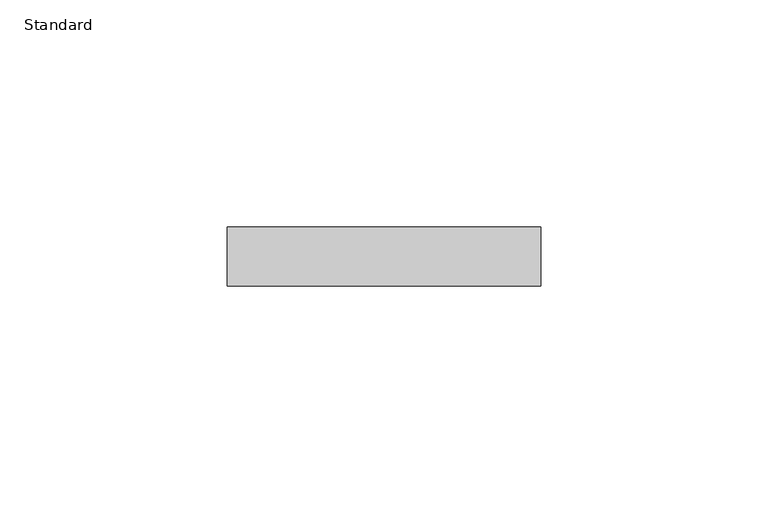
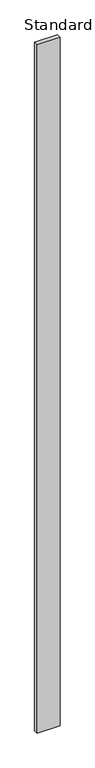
"""IFC4 building model written with IfcOpenShell, lengths in millimetres: furniture geometry, X_Partition-Compact Laminate-Duracube-Rectangular : Standard."""

from ifc_helpers import new_model, si_unit, frame, origin, place, context, project, spatial, polyline, outline, extrude, source, transform, mapped, element, save


def standard_83352e19(model_context):
    return source(origin(), model_context, "Body", "SweptSolid", [
        extrude(outline(polyline([(79.2003264, 0.0), (79.2003264, -13.0), (10.2003264, -13.0), (10.2003264, 0.0), (79.2003264, 0.0)])), frame((0.0, 0.0, 200.0), z_axis=(0.0, 0.0, 1.0), x_axis=(1.0, 0.0, 0.0)), (0.0, 0.0, 1.0), 2198.0),
    ])


if __name__ == "__main__":
    model = new_model("IFC4")
    model_context = context("Model", 3, world=origin())
    ifc_project = project(units=[si_unit("LENGTHUNIT", "METRE", prefix="MILLI")], contexts=[model_context])
    site = spatial("IfcSite", under=ifc_project)
    building = spatial("IfcBuilding", under=site)
    placement = place(None, origin())
    standard_shape = standard_83352e19(model_context)
    element("IfcFurniture", 1, ObjectType="X_Partition-Compact Laminate-Duracube-Rectangular : Standard", at=placement, inside=building, context=model_context, shape_type="MappedRepresentation", body=[
        mapped(standard_shape, transform((0.0, 0.0, 0.0), x_axis=(1.0, 0.0, 0.0), y_axis=(0.0, 1.0, 0.0), z_axis=(0.0, 0.0, 1.0))),
    ])
    save(model, "model.ifc")
